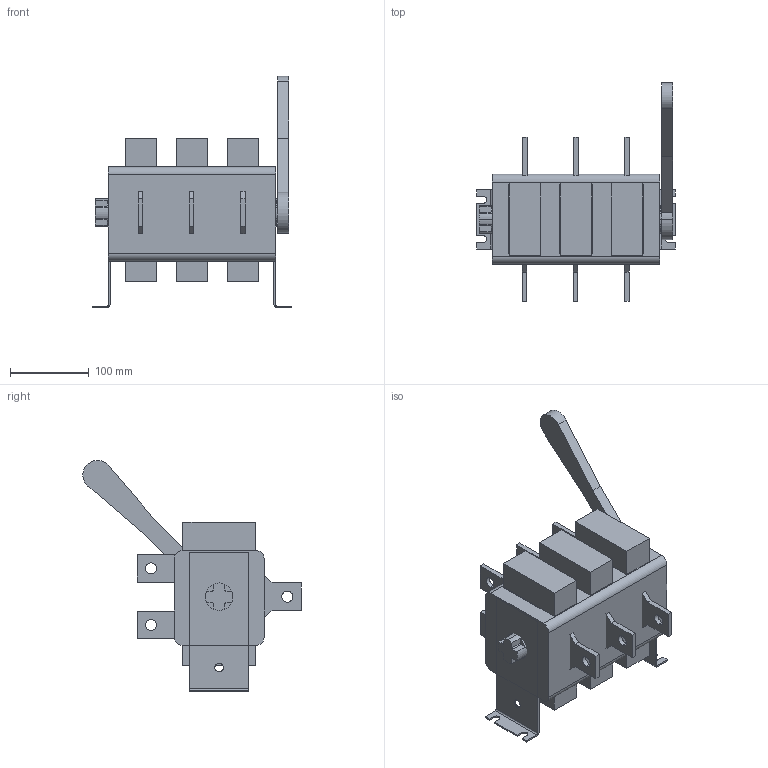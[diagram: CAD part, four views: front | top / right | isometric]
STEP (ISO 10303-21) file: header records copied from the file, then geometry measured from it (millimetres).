
FILE_DESCRIPTION (( 'STEP AP203' ), '1' );
FILE_NAME ('Âûêëþ÷àòåëü-ðàçúåäèíèòåëü ÂÐÓ32Ó-39À71220.STEP', '2018-09-04T06:06:28', ( '' ), ( '' ), 'SwSTEP 2.0', 'SolidWorks 2017', '' );
FILE_SCHEMA (( 'CONFIG_CONTROL_DESIGN' ));
Length unit declared in the file: millimetre
Products named in the file (1): Âûêëþ÷àòåëü-ðàçúåäèíèòåëü ÂÐÓ32Ó-39À71220
Bounding box: 252 x 277 x 293.5 mm (x, y, z)
Volume: 2782740.7 mm3; surface area: 467219.2 mm2
Topology: 20 solids, 20 shells, 277 faces, 711 edges, 474 vertices
Faces by surface type: plane 218, cylinder 59
Entity records: 8470 total; most frequent: CARTESIAN_POINT 1463, ORIENTED_EDGE 1422, DIRECTION 1413, EDGE_CURVE 711, VECTOR 565, LINE 565, VERTEX_POINT 474, AXIS2_PLACEMENT_3D 424
